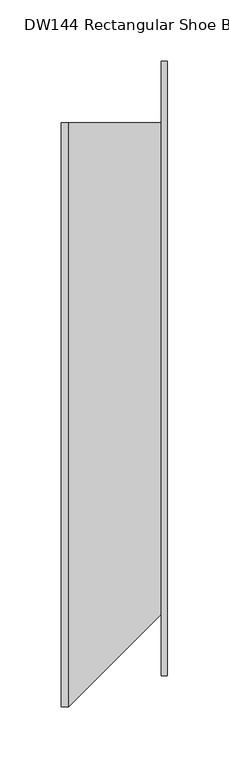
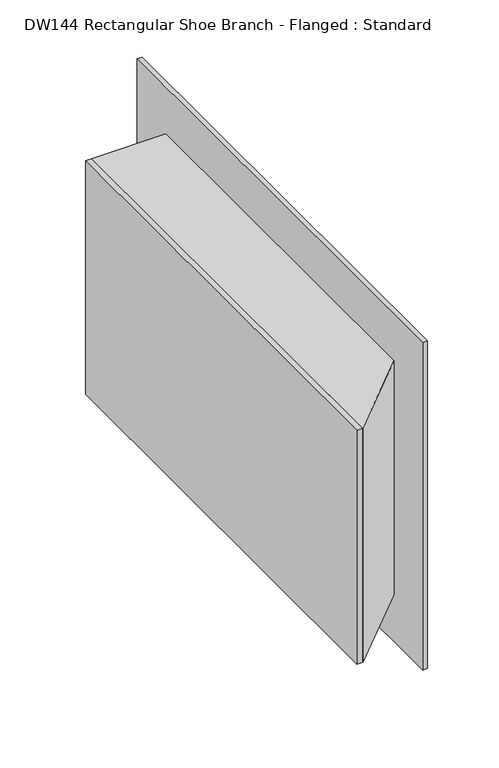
"""IFC4 building model written with IfcOpenShell, lengths in millimetres: duct fitting geometry, DW144 Rectangular Shoe Branch - Flanged : Standard."""

from ifc_helpers import new_model, si_unit, frame, origin, place, context, project, spatial, polyline, outline, extrude, source, transform, mapped, element, save


def dw144_rectangular_shoe_branch_flanged_standard_05e9f83b(model_context):
    return source(origin(), model_context, "Body", "SweptSolid", [
        extrude(outline(polyline([(80.0, 200.0), (80.0, -200.0), (75.0, -200.0), (0.0, -275.0), (0.0, 200.0), (80.0, 200.0)])), frame((0.0, 0.0, -125.0), z_axis=(0.0, 0.0, 1.0), x_axis=(1.0, 0.0, 0.0)), (0.0, 0.0, 1.0), 250.0),
        extrude(outline(polyline([(-6.096, -275.0), (-6.096, 200.0), (0.0, 200.0), (0.0, -275.0), (-6.096, -275.0)])), frame((0.0, 0.0, -125.0), z_axis=(0.0, 0.0, 1.0), x_axis=(1.0, 0.0, 0.0)), (0.0, 0.0, 1.0), 250.0),
        extrude(outline(polyline([(80.0, 250.0), (80.0, -250.0), (75.0, -250.0), (75.0, 250.0), (80.0, 250.0)])), frame((0.0, 0.0, -175.0), z_axis=(0.0, 0.0, 1.0), x_axis=(1.0, 0.0, 0.0)), (0.0, 0.0, 1.0), 350.0),
    ])


if __name__ == "__main__":
    model = new_model("IFC4")
    model_context = context("Model", 3, world=origin())
    ifc_project = project(units=[si_unit("LENGTHUNIT", "METRE", prefix="MILLI")], contexts=[model_context])
    site = spatial("IfcSite", under=ifc_project)
    building = spatial("IfcBuilding", under=site)
    placement = place(None, origin())
    dw144_rectangular_shoe_branch_flanged_standard_shape = dw144_rectangular_shoe_branch_flanged_standard_05e9f83b(model_context)
    element("IfcDuctFitting", 1, ObjectType="DW144 Rectangular Shoe Branch - Flanged : Standard", at=placement, inside=building, context=model_context, shape_type="MappedRepresentation", body=[
        mapped(dw144_rectangular_shoe_branch_flanged_standard_shape, transform((0.0, 0.0, 0.0), x_axis=(1.0, 0.0, 0.0), y_axis=(0.0, 1.0, 0.0), z_axis=(0.0, 0.0, 1.0))),
    ])
    save(model, "model.ifc")
